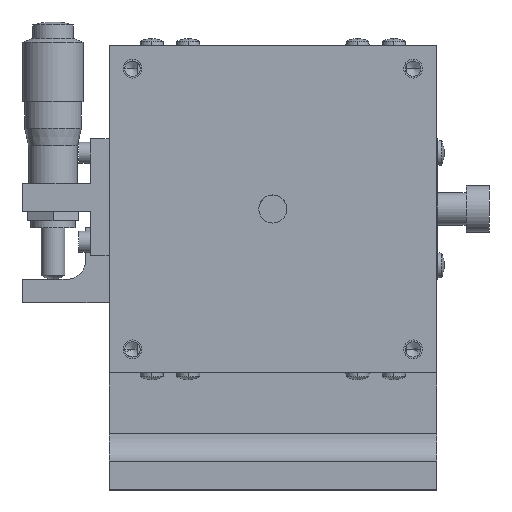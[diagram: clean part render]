
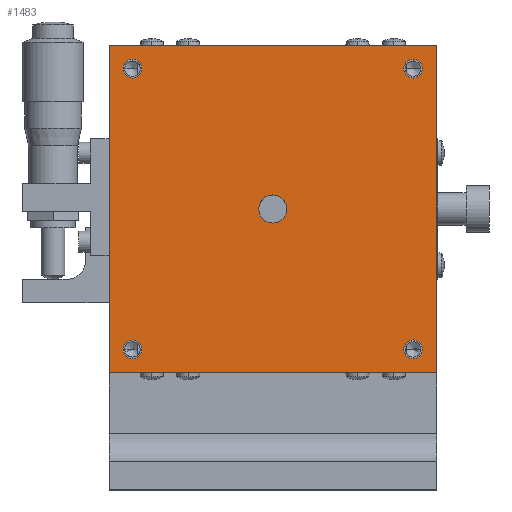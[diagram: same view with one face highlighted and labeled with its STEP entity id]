
A CAD part, top view. The second image highlights one B-rep face of the part: STEP entity #1483.
In plain terms, the highlighted planar face has unit normal (0, 0, 1).
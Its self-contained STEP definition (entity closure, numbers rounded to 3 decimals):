
#218 = ORIENTED_EDGE ( 'NONE', *, *, #9502, .T. ) ;
#219 = ORIENTED_EDGE ( 'NONE', *, *, #9556, .F. ) ;
#220 = ORIENTED_EDGE ( 'NONE', *, *, #9523, .F. ) ;
#221 = ORIENTED_EDGE ( 'NONE', *, *, #9510, .T. ) ;
#222 = ORIENTED_EDGE ( 'NONE', *, *, #9431, .F. ) ;
#223 = ORIENTED_EDGE ( 'NONE', *, *, #9500, .F. ) ;
#224 = ORIENTED_EDGE ( 'NONE', *, *, #9438, .F. ) ;
#225 = ORIENTED_EDGE ( 'NONE', *, *, #9534, .F. ) ;
#226 = ORIENTED_EDGE ( 'NONE', *, *, #9411, .F. ) ;
#227 = ORIENTED_EDGE ( 'NONE', *, *, #9514, .F. ) ;
#228 = ORIENTED_EDGE ( 'NONE', *, *, #9389, .F. ) ;
#229 = ORIENTED_EDGE ( 'NONE', *, *, #9560, .F. ) ;
#230 = ORIENTED_EDGE ( 'NONE', *, *, #9626, .F. ) ;
#231 = ORIENTED_EDGE ( 'NONE', *, *, #9559, .F. ) ;
#293 = CIRCLE ( 'NONE', #296, 2. ) ;
#296 = AXIS2_PLACEMENT_3D ( 'NONE', #4790, #4791, #4792 ) ;
#764 = VERTEX_POINT ( 'NONE', #2303 ) ;
#781 = VERTEX_POINT ( 'NONE', #2320 ) ;
#838 = VERTEX_POINT ( 'NONE', #2373 ) ;
#875 = VERTEX_POINT ( 'NONE', #2409 ) ;
#1190 = VECTOR ( 'NONE', #6786, 1000. ) ;
#1201 = CIRCLE ( 'NONE', #1204, 2. ) ;
#1204 = AXIS2_PLACEMENT_3D ( 'NONE', #6817, #6818, #6819 ) ;
#1227 = VECTOR ( 'NONE', #4581, 1000. ) ;
#1231 = CIRCLE ( 'NONE', #1236, 2. ) ;
#1235 = CIRCLE ( 'NONE', #1238, 2. ) ;
#1236 = AXIS2_PLACEMENT_3D ( 'NONE', #4591, #4592, #4593 ) ;
#1238 = AXIS2_PLACEMENT_3D ( 'NONE', #4595, #4596, #4597 ) ;
#1335 = CIRCLE ( 'NONE', #1340, 3. ) ;
#1340 = AXIS2_PLACEMENT_3D ( 'NONE', #6372, #6373, #6374 ) ;
#1350 = CIRCLE ( 'NONE', #1353, 2. ) ;
#1353 = AXIS2_PLACEMENT_3D ( 'NONE', #6396, #6398, #6400 ) ;
#1434 = VECTOR ( 'NONE', #6722, 1000. ) ;
#1438 = CIRCLE ( 'NONE', #1450, 3. ) ;
#1450 = AXIS2_PLACEMENT_3D ( 'NONE', #6717, #6718, #6719 ) ;
#1462 = VECTOR ( 'NONE', #6745, 1000. ) ;
#1469 = CIRCLE ( 'NONE', #1471, 2. ) ;
#1471 = AXIS2_PLACEMENT_3D ( 'NONE', #6759, #6760, #6761 ) ;
#1483 = ADVANCED_FACE ( 'NONE', ( #2519, #2515, #2522, #2524, #2518, #2520 ), #2526, .T. ) ;
#2303 = CARTESIAN_POINT ( 'NONE',  ( -35., 25., -24. ) ) ;
#2320 = CARTESIAN_POINT ( 'NONE',  ( 35., 95., -24. ) ) ;
#2373 = CARTESIAN_POINT ( 'NONE',  ( 35., 25., -24. ) ) ;
#2409 = CARTESIAN_POINT ( 'NONE',  ( -35., 95., -24. ) ) ;
#2515 = FACE_BOUND ( 'NONE', #4130, .T. ) ;
#2518 = FACE_BOUND ( 'NONE', #3873, .T. ) ;
#2519 = FACE_BOUND ( 'NONE', #4230, .T. ) ;
#2520 = FACE_OUTER_BOUND ( 'NONE', #4132, .T. ) ;
#2522 = FACE_BOUND ( 'NONE', #3835, .T. ) ;
#2523 = CARTESIAN_POINT ( 'NONE',  ( 35., 25., -24. ) ) ;
#2524 = FACE_BOUND ( 'NONE', #3611, .T. ) ;
#2526 = PLANE ( 'NONE',  #4444 ) ;
#2527 = DIRECTION ( 'NONE',  ( 0., 0., 1. ) ) ;
#2528 = DIRECTION ( 'NONE',  ( 1., 0., 0. ) ) ;
#3160 = VERTEX_POINT ( 'NONE', #8648 ) ;
#3166 = VERTEX_POINT ( 'NONE', #8654 ) ;
#3187 = VERTEX_POINT ( 'NONE', #8664 ) ;
#3190 = VERTEX_POINT ( 'NONE', #8666 ) ;
#3255 = VERTEX_POINT ( 'NONE', #8699 ) ;
#3257 = VERTEX_POINT ( 'NONE', #8700 ) ;
#3338 = VERTEX_POINT ( 'NONE', #8742 ) ;
#3611 = EDGE_LOOP ( 'NONE', ( #225, #224 ) ) ;
#3612 = VERTEX_POINT ( 'NONE', #8791 ) ;
#3633 = VERTEX_POINT ( 'NONE', #8800 ) ;
#3656 = VERTEX_POINT ( 'NONE', #8808 ) ;
#3835 = EDGE_LOOP ( 'NONE', ( #227, #226 ) ) ;
#3873 = EDGE_LOOP ( 'NONE', ( #223, #222 ) ) ;
#4130 = EDGE_LOOP ( 'NONE', ( #229, #228 ) ) ;
#4132 = EDGE_LOOP ( 'NONE', ( #221, #220, #219, #218 ) ) ;
#4230 = EDGE_LOOP ( 'NONE', ( #231, #230 ) ) ;
#4444 = AXIS2_PLACEMENT_3D ( 'NONE', #2523, #2527, #2528 ) ;
#4575 = CARTESIAN_POINT ( 'NONE',  ( -35., 25., -24. ) ) ;
#4577 = LINE ( 'NONE', #4575, #1227 ) ;
#4581 = DIRECTION ( 'NONE',  ( 0., 1., 0. ) ) ;
#4591 = CARTESIAN_POINT ( 'NONE',  ( 30., 30., -24. ) ) ;
#4592 = DIRECTION ( 'NONE',  ( 0., 0., 1. ) ) ;
#4593 = DIRECTION ( 'NONE',  ( 1., 0., 0. ) ) ;
#4595 = CARTESIAN_POINT ( 'NONE',  ( -30., 30., -24. ) ) ;
#4596 = DIRECTION ( 'NONE',  ( 0., 0., 1. ) ) ;
#4597 = DIRECTION ( 'NONE',  ( 1., 0., 0. ) ) ;
#4790 = CARTESIAN_POINT ( 'NONE',  ( 30., 30., -24. ) ) ;
#4791 = DIRECTION ( 'NONE',  ( 0., 0., 1. ) ) ;
#4792 = DIRECTION ( 'NONE',  ( 1., 0., 0. ) ) ;
#6174 = CARTESIAN_POINT ( 'NONE',  ( -30., 30., -24. ) ) ;
#6175 = DIRECTION ( 'NONE',  ( 0., 0., 1. ) ) ;
#6176 = DIRECTION ( 'NONE',  ( 1., 0., 0. ) ) ;
#6270 = CARTESIAN_POINT ( 'NONE',  ( -30., 90., -24. ) ) ;
#6271 = DIRECTION ( 'NONE',  ( 0., 0., 1. ) ) ;
#6272 = DIRECTION ( 'NONE',  ( 1., 0., 0. ) ) ;
#6372 = CARTESIAN_POINT ( 'NONE',  ( 0., 60., -24. ) ) ;
#6373 = DIRECTION ( 'NONE',  ( 0., 0., 1. ) ) ;
#6374 = DIRECTION ( 'NONE',  ( 1., 0., 0. ) ) ;
#6396 = CARTESIAN_POINT ( 'NONE',  ( 30., 90., -24. ) ) ;
#6398 = DIRECTION ( 'NONE',  ( 0., 0., 1. ) ) ;
#6400 = DIRECTION ( 'NONE',  ( 1., 0., 0. ) ) ;
#6716 = LINE ( 'NONE', #6721, #1434 ) ;
#6717 = CARTESIAN_POINT ( 'NONE',  ( 0., 60., -24. ) ) ;
#6718 = DIRECTION ( 'NONE',  ( 0., 0., 1. ) ) ;
#6719 = DIRECTION ( 'NONE',  ( 1., 0., 0. ) ) ;
#6721 = CARTESIAN_POINT ( 'NONE',  ( 35., 25., -24. ) ) ;
#6722 = DIRECTION ( 'NONE',  ( 1., 0., 0. ) ) ;
#6737 = LINE ( 'NONE', #6738, #1462 ) ;
#6738 = CARTESIAN_POINT ( 'NONE',  ( 35., 25., -24. ) ) ;
#6745 = DIRECTION ( 'NONE',  ( 0., 1., 0. ) ) ;
#6759 = CARTESIAN_POINT ( 'NONE',  ( -30., 90., -24. ) ) ;
#6760 = DIRECTION ( 'NONE',  ( 0., 0., 1. ) ) ;
#6761 = DIRECTION ( 'NONE',  ( 1., 0., 0. ) ) ;
#6784 = LINE ( 'NONE', #6785, #1190 ) ;
#6785 = CARTESIAN_POINT ( 'NONE',  ( 35., 95., -24. ) ) ;
#6786 = DIRECTION ( 'NONE',  ( 1., 0., 0. ) ) ;
#6817 = CARTESIAN_POINT ( 'NONE',  ( 30., 90., -24. ) ) ;
#6818 = DIRECTION ( 'NONE',  ( 0., 0., 1. ) ) ;
#6819 = DIRECTION ( 'NONE',  ( 1., 0., 0. ) ) ;
#7387 = CIRCLE ( 'NONE', #7390, 2. ) ;
#7390 = AXIS2_PLACEMENT_3D ( 'NONE', #6174, #6175, #6176 ) ;
#7417 = CIRCLE ( 'NONE', #7420, 2. ) ;
#7420 = AXIS2_PLACEMENT_3D ( 'NONE', #6270, #6271, #6272 ) ;
#8648 = CARTESIAN_POINT ( 'NONE',  ( 32., 90., -24. ) ) ;
#8654 = CARTESIAN_POINT ( 'NONE',  ( -28., 30., -24. ) ) ;
#8664 = CARTESIAN_POINT ( 'NONE',  ( 32., 30., -24. ) ) ;
#8666 = CARTESIAN_POINT ( 'NONE',  ( 28., 30., -24. ) ) ;
#8699 = CARTESIAN_POINT ( 'NONE',  ( -3., 60., -24. ) ) ;
#8700 = CARTESIAN_POINT ( 'NONE',  ( -28., 90., -24. ) ) ;
#8742 = CARTESIAN_POINT ( 'NONE',  ( -32., 90., -24. ) ) ;
#8791 = CARTESIAN_POINT ( 'NONE',  ( 3., 60., -24. ) ) ;
#8800 = CARTESIAN_POINT ( 'NONE',  ( 28., 90., -24. ) ) ;
#8808 = CARTESIAN_POINT ( 'NONE',  ( -32., 30., -24. ) ) ;
#9389 = EDGE_CURVE ( 'NONE', #3656, #3166, #7387, .T. ) ;
#9411 = EDGE_CURVE ( 'NONE', #3338, #3257, #7417, .T. ) ;
#9431 = EDGE_CURVE ( 'NONE', #3255, #3612, #1335, .T. ) ;
#9438 = EDGE_CURVE ( 'NONE', #3633, #3160, #1350, .T. ) ;
#9500 = EDGE_CURVE ( 'NONE', #3612, #3255, #1438, .T. ) ;
#9502 = EDGE_CURVE ( 'NONE', #764, #838, #6716, .T. ) ;
#9510 = EDGE_CURVE ( 'NONE', #838, #781, #6737, .T. ) ;
#9514 = EDGE_CURVE ( 'NONE', #3257, #3338, #1469, .T. ) ;
#9523 = EDGE_CURVE ( 'NONE', #875, #781, #6784, .T. ) ;
#9534 = EDGE_CURVE ( 'NONE', #3160, #3633, #1201, .T. ) ;
#9556 = EDGE_CURVE ( 'NONE', #764, #875, #4577, .T. ) ;
#9559 = EDGE_CURVE ( 'NONE', #3187, #3190, #1231, .T. ) ;
#9560 = EDGE_CURVE ( 'NONE', #3166, #3656, #1235, .T. ) ;
#9626 = EDGE_CURVE ( 'NONE', #3190, #3187, #293, .T. ) ;
